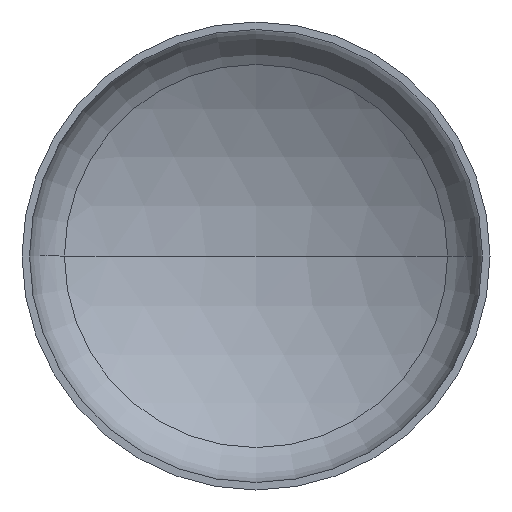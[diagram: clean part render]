
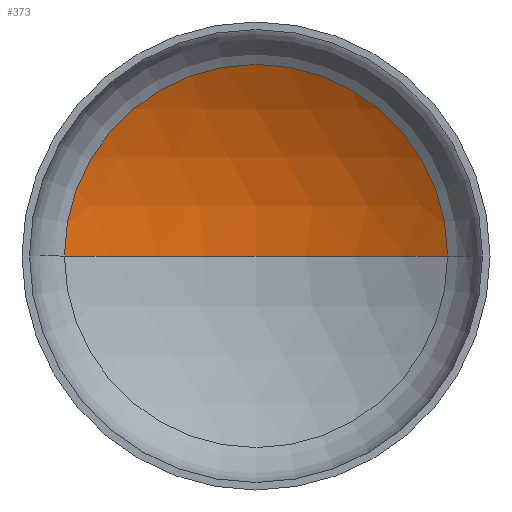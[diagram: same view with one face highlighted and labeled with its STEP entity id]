
A CAD part, front view. The second image highlights one B-rep face of the part: STEP entity #373.
In plain terms, the highlighted spherical face has radius 1440 mm.
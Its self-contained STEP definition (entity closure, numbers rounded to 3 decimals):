
#20 = ORIENTED_EDGE ( 'NONE', *, *, #216, .T. ) ;
#27 = EDGE_LOOP ( 'NONE', ( #31, #20, #92 ) ) ;
#31 = ORIENTED_EDGE ( 'NONE', *, *, #219, .F. ) ;
#38 = AXIS2_PLACEMENT_3D ( 'NONE', #88, #234, #280 ) ;
#53 = DIRECTION ( 'NONE',  ( 1., 0., 0. ) ) ;
#84 = VERTEX_POINT ( 'NONE', #158 ) ;
#88 = CARTESIAN_POINT ( 'NONE',  ( 0., -911.004, 0. ) ) ;
#92 = ORIENTED_EDGE ( 'NONE', *, *, #213, .T. ) ;
#94 = VERTEX_POINT ( 'NONE', #167 ) ;
#104 = VERTEX_POINT ( 'NONE', #195 ) ;
#122 = CIRCLE ( 'NONE', #136, 736.687 ) ;
#126 = DIRECTION ( 'NONE',  ( 0., 0., -1. ) ) ;
#128 = AXIS2_PLACEMENT_3D ( 'NONE', #211, #239, #235 ) ;
#130 = AXIS2_PLACEMENT_3D ( 'NONE', #142, #126, #138 ) ;
#136 = AXIS2_PLACEMENT_3D ( 'NONE', #233, #384, #53 ) ;
#138 = DIRECTION ( 'NONE',  ( -1., 0., 0. ) ) ;
#142 = CARTESIAN_POINT ( 'NONE',  ( 0., -911.004, 0. ) ) ;
#158 = CARTESIAN_POINT ( 'NONE',  ( -736.687, 326.288, 0. ) ) ;
#165 = FACE_OUTER_BOUND ( 'NONE', #27, .T. ) ;
#167 = CARTESIAN_POINT ( 'NONE',  ( 0., 528.996, 0. ) ) ;
#195 = CARTESIAN_POINT ( 'NONE',  ( 736.687, 326.288, 0. ) ) ;
#211 = CARTESIAN_POINT ( 'NONE',  ( 0., -911.004, 0. ) ) ;
#213 = EDGE_CURVE ( 'NONE', #104, #84, #122, .T. ) ;
#216 = EDGE_CURVE ( 'NONE', #94, #104, #385, .T. ) ;
#219 = EDGE_CURVE ( 'NONE', #94, #84, #271, .T. ) ;
#233 = CARTESIAN_POINT ( 'NONE',  ( 0., 326.288, 0. ) ) ;
#234 = DIRECTION ( 'NONE',  ( 0., 0., -1. ) ) ;
#235 = DIRECTION ( 'NONE',  ( 1., 0., 0. ) ) ;
#239 = DIRECTION ( 'NONE',  ( 0., 0., 1. ) ) ;
#271 = CIRCLE ( 'NONE', #128, 1440. ) ;
#280 = DIRECTION ( 'NONE',  ( -1., 0., 0. ) ) ;
#298 = SPHERICAL_SURFACE ( 'NONE', #38, 1440. ) ;
#373 = ADVANCED_FACE ( 'NONE', ( #165 ), #298, .F. ) ;
#384 = DIRECTION ( 'NONE',  ( 0., -1., 0. ) ) ;
#385 = CIRCLE ( 'NONE', #130, 1440. ) ;
